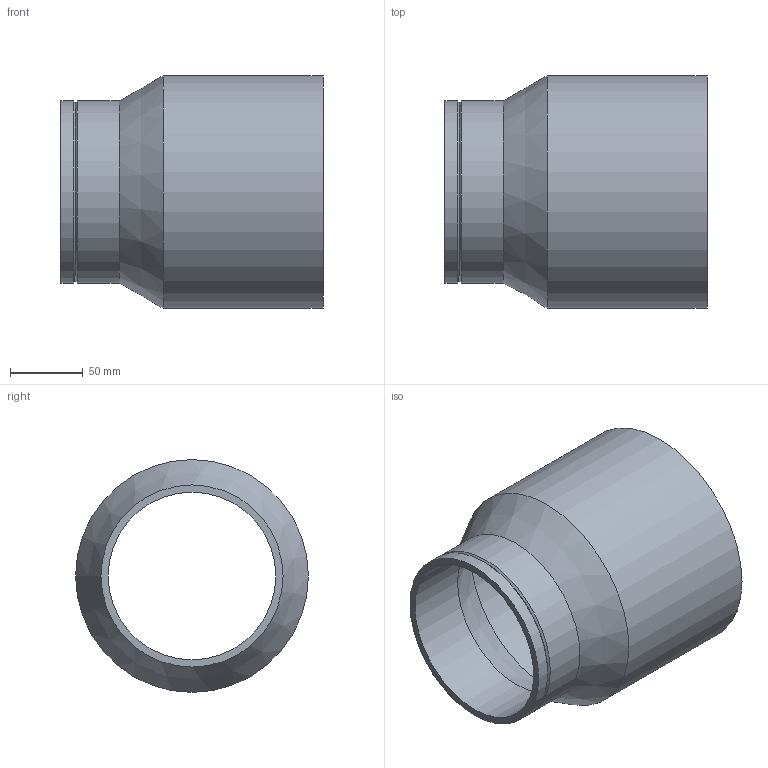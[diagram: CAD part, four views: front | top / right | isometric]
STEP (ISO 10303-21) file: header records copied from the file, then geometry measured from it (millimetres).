
FILE_DESCRIPTION(/* description */ (''),/* implementation_level */ '2;1');
FILE_NAME(/* name */ 'Z:\Geberit\Export\NewStep\368550.stp',/* time_stamp */ '2014-04-02T08:00:36+02:00',/* author */ ('nelson'),/* organization */ (''),/* preprocessor_version */ 'ST-DEVELOPER v15.2',/* originating_system */ 'Autodesk Inventor 2014',/* authorisation */ '');
FILE_SCHEMA (('AUTOMOTIVE_DESIGN { 1 0 10303 214 3 1 1 }'));
Length unit declared in the file: millimetre
Products named in the file (1): 368550
Bounding box: 180 x 159.8 x 159.8 mm (x, y, z)
Volume: 408616.7 mm3; surface area: 171657.2 mm2
Topology: 1 solids, 1 shells, 11 faces, 20 edges, 11 vertices
Faces by surface type: cylinder 5, cone 4, plane 2
Full cylindrical faces by diameter (mm): 115.2 x1, 125 x2, 150 x1, 159.8 x1
Entity records: 249 total; most frequent: DIRECTION 46, CARTESIAN_POINT 34, AXIS2_PLACEMENT_3D 23, EDGE_LOOP 22, ORIENTED_EDGE 22, FACE_BOUND 12, CIRCLE 11, VERTEX_POINT 11
